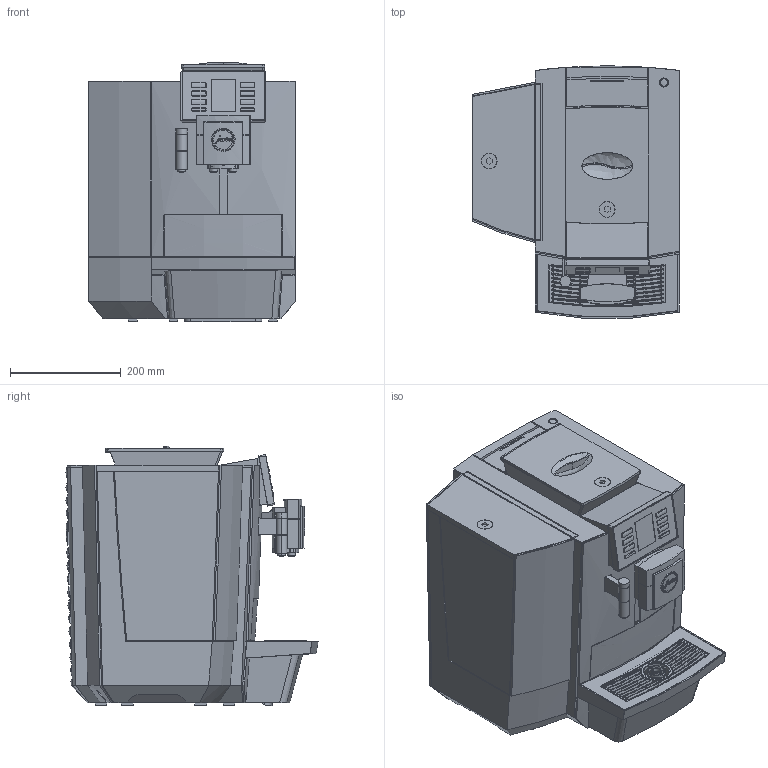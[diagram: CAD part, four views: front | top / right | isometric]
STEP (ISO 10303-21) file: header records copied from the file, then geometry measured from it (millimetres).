
FILE_DESCRIPTION (( 'STEP AP214' ), '1' );
FILE_NAME ('X8_XKappa_basic.STEP', '2017-03-02T17:13:35', ( '' ), ( '' ), 'SwSTEP 2.0', 'SolidWorks 2015', '' );
FILE_SCHEMA (( 'AUTOMOTIVE_DESIGN' ));
Length unit declared in the file: millimetre
Products named in the file (1): X8_XKappa_basic
Bounding box: 373.01 x 456.4 x 470.05 mm (x, y, z)
Volume: 39750310.8 mm3; surface area: 2574756.4 mm2
Topology: 32 solids, 33 shells, 2094 faces, 6006 edges, 3932 vertices
Faces by surface type: plane 798, bspline 513, cylinder 497, cone 232, torus 35, sphere 19
Full cylindrical faces by diameter (mm): 6 x3, 12 x1, 14 x1, 14.4 x1, 15 x2, 15.846 x2, 28 x1, 28.5 x1, 39 x1, 39.3 x1
Entity records: 88907 total; most frequent: CARTESIAN_POINT 39905, ORIENTED_EDGE 11852, DIRECTION 7679, EDGE_CURVE 5926, VERTEX_POINT 3912, AXIS2_PLACEMENT_3D 2639, VECTOR 2401, LINE 2401
